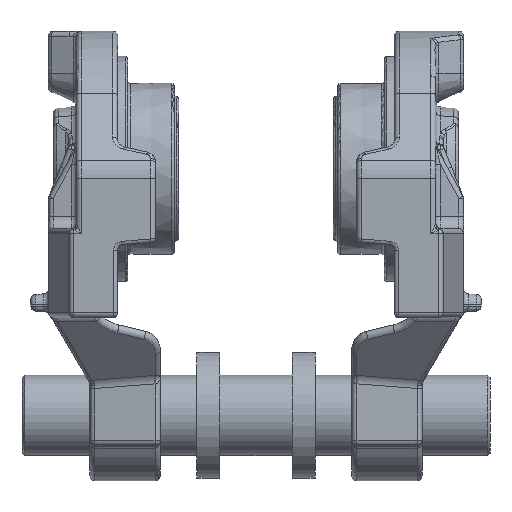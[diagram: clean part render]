
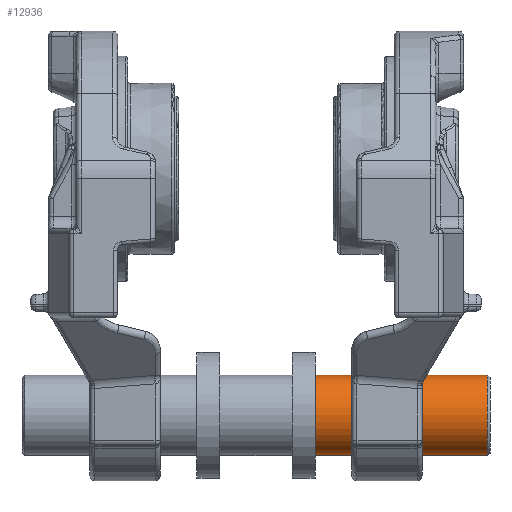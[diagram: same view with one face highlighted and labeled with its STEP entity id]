
A CAD part, front view. The second image highlights one B-rep face of the part: STEP entity #12936.
In plain terms, the highlighted cylindrical face has radius 16 mm (diameter 32 mm), a full revolution.
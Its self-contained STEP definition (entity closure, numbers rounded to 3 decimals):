
#1045=LINE('',#19240,#1624);
#1624=VECTOR('',#15479,16.);
#2203=CYLINDRICAL_SURFACE('',#13865,16.);
#2499=FACE_OUTER_BOUND('',#3343,.T.);
#3343=EDGE_LOOP('',(#8091,#8092,#8093,#8094,#8095,#8096));
#4207=CIRCLE('',#13863,16.);
#4208=CIRCLE('',#13866,16.);
#4209=CIRCLE('',#13867,16.);
#4210=CIRCLE('',#13868,16.);
#5006=VERTEX_POINT('',#19229);
#5007=VERTEX_POINT('',#19234);
#5008=VERTEX_POINT('',#19235);
#5009=VERTEX_POINT('',#19237);
#6133=EDGE_CURVE('',#5006,#5006,#4207,.T.);
#6135=EDGE_CURVE('',#5007,#5008,#4208,.T.);
#6136=EDGE_CURVE('',#5009,#5007,#4209,.T.);
#6137=EDGE_CURVE('',#5008,#5009,#4210,.T.);
#6138=EDGE_CURVE('',#5008,#5006,#1045,.T.);
#8091=ORIENTED_EDGE('',*,*,#6135,.F.);
#8092=ORIENTED_EDGE('',*,*,#6136,.F.);
#8093=ORIENTED_EDGE('',*,*,#6137,.F.);
#8094=ORIENTED_EDGE('',*,*,#6138,.T.);
#8095=ORIENTED_EDGE('',*,*,#6133,.T.);
#8096=ORIENTED_EDGE('',*,*,#6138,.F.);
#12936=ADVANCED_FACE('',(#2499),#2203,.T.);
#13863=AXIS2_PLACEMENT_3D('',#19230,#15466,#15467);
#13865=AXIS2_PLACEMENT_3D('',#19233,#15471,#15472);
#13866=AXIS2_PLACEMENT_3D('',#19236,#15473,#15474);
#13867=AXIS2_PLACEMENT_3D('',#19238,#15475,#15476);
#13868=AXIS2_PLACEMENT_3D('',#19239,#15477,#15478);
#15466=DIRECTION('center_axis',(1.,0.,0.));
#15467=DIRECTION('ref_axis',(0.,1.,0.));
#15471=DIRECTION('center_axis',(1.,0.,0.));
#15472=DIRECTION('ref_axis',(0.,1.,0.));
#15473=DIRECTION('center_axis',(1.,0.,0.));
#15474=DIRECTION('ref_axis',(0.,-1.,0.));
#15475=DIRECTION('center_axis',(1.,0.,0.));
#15476=DIRECTION('ref_axis',(0.,-1.,0.));
#15477=DIRECTION('center_axis',(1.,0.,0.));
#15478=DIRECTION('ref_axis',(0.,-1.,0.));
#15479=DIRECTION('',(-1.,0.,0.));
#19229=CARTESIAN_POINT('',(23.5,-16.,0.));
#19230=CARTESIAN_POINT('Origin',(23.5,0.,0.));
#19233=CARTESIAN_POINT('Origin',(0.,0.,0.));
#19234=CARTESIAN_POINT('',(92.,0.,16.));
#19235=CARTESIAN_POINT('',(92.,-16.,0.));
#19236=CARTESIAN_POINT('Origin',(92.,0.,0.));
#19237=CARTESIAN_POINT('',(92.,16.,0.));
#19238=CARTESIAN_POINT('Origin',(92.,0.,0.));
#19239=CARTESIAN_POINT('Origin',(92.,0.,0.));
#19240=CARTESIAN_POINT('',(0.,-16.,0.));
